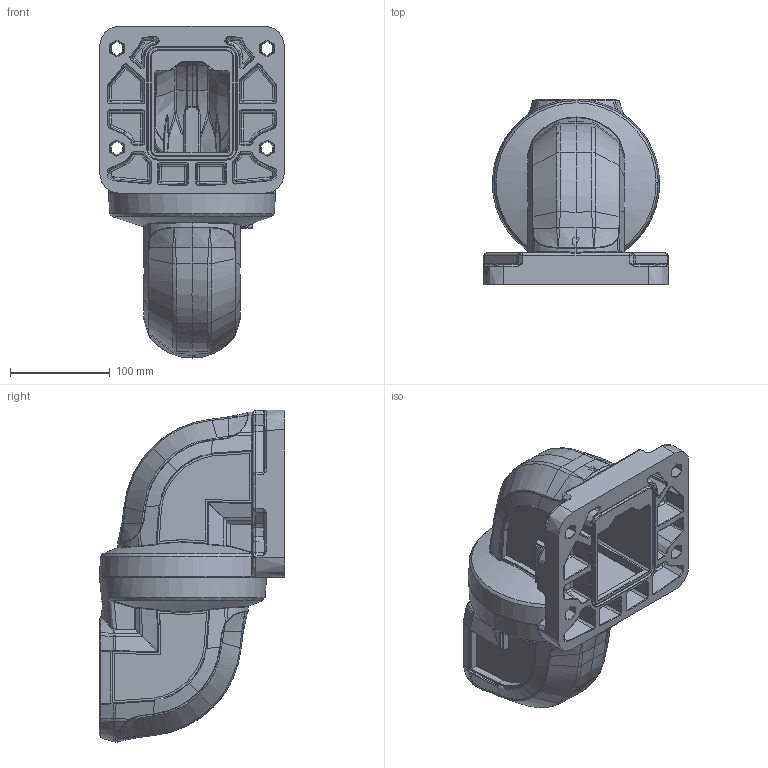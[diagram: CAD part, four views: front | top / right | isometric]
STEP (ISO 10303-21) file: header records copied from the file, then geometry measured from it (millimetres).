
FILE_DESCRIPTION(/* description */ (''),/* implementation_level */ '2;1');
FILE_NAME(/* name */ '75-110-560.stp',/* time_stamp */ '2023-01-13T16:29:49+08:00',/* author */ (''),/* organization */ (''),/* preprocessor_version */ 'ST-DEVELOPER v11',/* originating_system */ 'SIEMENS PLM Software NX 7.0',/* authorisation */ '');
FILE_SCHEMA (('AUTOMOTIVE_DESIGN { 1 0 10303 214 1 1 1 1 }'));
Products named in the file (1): PCCFB1eyub
Bounding box: 185.3 x 186.2 x 333.31 mm (x, y, z)
Volume: 1405921.9 mm3; surface area: 490045.9 mm2
Topology: 4 solids, 18 shells, 3594 faces, 8510 edges, 4939 vertices
Faces by surface type: bspline 1848, cylinder 683, plane 490, torus 278, cone 175, sphere 70, extrusion 50
Full cylindrical faces by diameter (mm): 3.5 x3, 4.5 x2, 8.5 x2, 9.398 x4, 13.643 x4
Entity records: 180708 total; most frequent: CARTESIAN_POINT 96796, ORIENTED_EDGE 16350, DIRECTION 10233, EDGE_CURVE 8175, VERTEX_POINT 4861, AXIS2_PLACEMENT_3D 4344, EDGE_LOOP 3916, B_SPLINE_CURVE_WITH_KNOTS 3604
